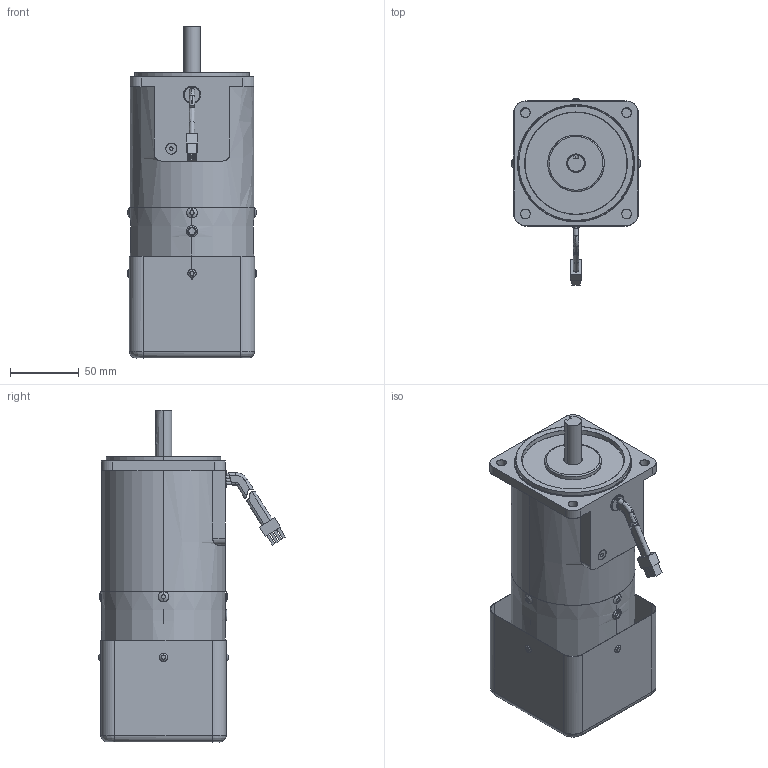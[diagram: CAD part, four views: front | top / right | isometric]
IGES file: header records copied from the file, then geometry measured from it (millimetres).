
Start section: SolidWorks IGES file using analytic representation for surfaces
Global section: file name: \\楷备家烹钦辑滚\data (D)\档搁 枚\权其捞瘤 档搁\9. SPEED BRAKE\90\60W\(9-60) 9SBDG∴-60F2WH.IGS; native system: SolidWorks 2007; preprocessor: SolidWorks 2007; author: user; date: 150723.090308; units: millimetre
Bounding box: 94 x 135.4 x 241 mm (x, y, z)
Surface area: 212763 mm2 (no closed solid volume)
Topology: 0 solids, 0 shells, 467 faces, 9263 edges, 9263 vertices
Faces by surface type: revolution 288, bspline 179
